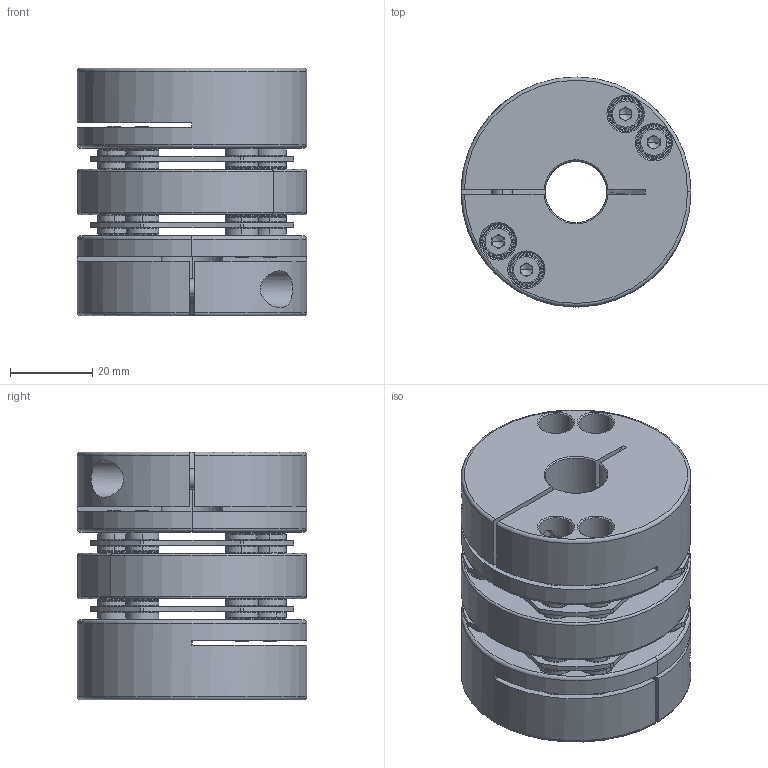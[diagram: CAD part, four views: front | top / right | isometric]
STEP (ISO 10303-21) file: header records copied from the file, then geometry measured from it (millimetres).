
FILE_DESCRIPTION (( 'STEP AP214' ), '1' );
FILE_NAME ('SHDW-56C.STEP', '2009-05-21T06:18:39', ( '歜煽繹' ), ( '' ), 'SwSTEP 2.0', 'SolidWorks 2007', '' );
FILE_SCHEMA (( 'AUTOMOTIVE_DESIGN' ));
Length unit declared in the file: millimetre
Products named in the file (9): M4x10; 誠纖掘葬_ル遽; M5x18; 憮蝶っ-asm_ル遽; SHDW-56C; sus-plate1_ル遽; 醞除っ_ル遽; collar-2_ル遽; collar-1_ル遽
Assembly tree (32 placements, depth 3):
  SHDW-56C
    M5x18  x2
    誠纖掘葬_ル遽  x2
    醞除っ_ル遽
    憮蝶っ-asm_ル遽  x2
      M4x10
      collar-1_ル遽
      collar-2_ル遽
      sus-plate1_ル遽
Bounding box: 56 x 56 x 60.4 mm (x, y, z)
Volume: 101556.6 mm3; surface area: 51929.4 mm2
Topology: 55 solids, 55 shells, 1338 faces, 2898 edges, 1696 vertices
Faces by surface type: torus 408, cylinder 394, plane 392, cone 144
Entity records: 8367 total; most frequent: DIRECTION 1580, CARTESIAN_POINT 1458, ORIENTED_EDGE 1238, AXIS2_PLACEMENT_3D 671, EDGE_CURVE 619, VERTEX_POINT 377, CIRCLE 369, EDGE_LOOP 338
